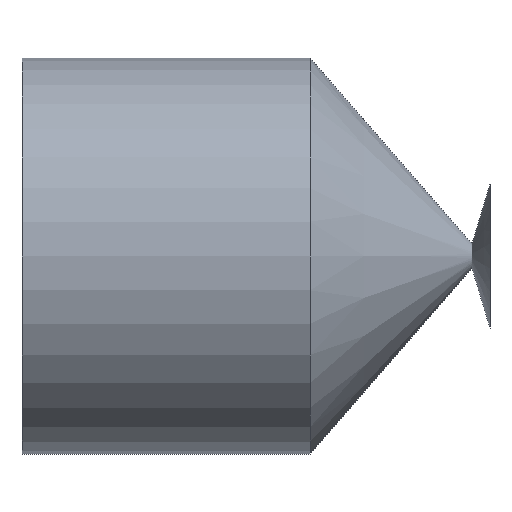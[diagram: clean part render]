
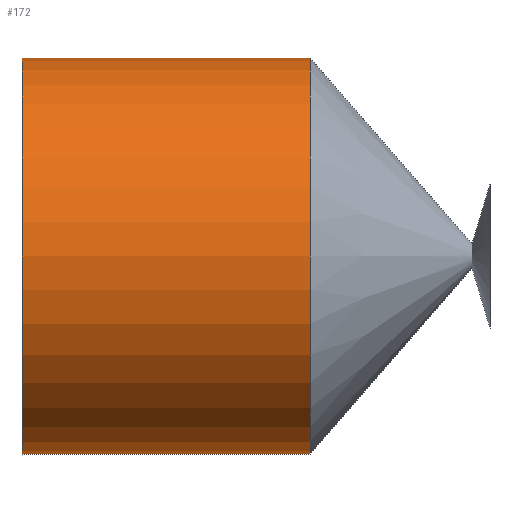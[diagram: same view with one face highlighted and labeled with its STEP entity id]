
A CAD part, left-side view. The second image highlights one B-rep face of the part: STEP entity #172.
In plain terms, the highlighted cylindrical face has radius 5.5 mm (diameter 11 mm), a partial arc.
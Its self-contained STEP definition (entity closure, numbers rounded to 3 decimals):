
#5 = DIRECTION ( 'NONE',  ( 0., -1., 0. ) ) ;
#18 = CARTESIAN_POINT ( 'NONE',  ( 0., 13., 0. ) ) ;
#27 = VERTEX_POINT ( 'NONE', #113 ) ;
#54 = VECTOR ( 'NONE', #500, 1000. ) ;
#59 = CIRCLE ( 'NONE', #99, 5.5 ) ;
#86 = AXIS2_PLACEMENT_3D ( 'NONE', #490, #5, #291 ) ;
#92 = VERTEX_POINT ( 'NONE', #466 ) ;
#99 = AXIS2_PLACEMENT_3D ( 'NONE', #18, #261, #506 ) ;
#103 = VERTEX_POINT ( 'NONE', #155 ) ;
#110 = CARTESIAN_POINT ( 'NONE',  ( 0., 0., -5.5 ) ) ;
#113 = CARTESIAN_POINT ( 'NONE',  ( 0., 13., -5.5 ) ) ;
#142 = CARTESIAN_POINT ( 'NONE',  ( 0., 0., 0. ) ) ;
#147 = ORIENTED_EDGE ( 'NONE', *, *, #316, .T. ) ;
#153 = ORIENTED_EDGE ( 'NONE', *, *, #516, .F. ) ;
#155 = CARTESIAN_POINT ( 'NONE',  ( 0., 5., -5.5 ) ) ;
#166 = FACE_OUTER_BOUND ( 'NONE', #383, .T. ) ;
#172 = ADVANCED_FACE ( 'NONE', ( #166 ), #477, .T. ) ;
#191 = ORIENTED_EDGE ( 'NONE', *, *, #468, .F. ) ;
#195 = DIRECTION ( 'NONE',  ( 0., -1., 0. ) ) ;
#259 = EDGE_CURVE ( 'NONE', #27, #103, #269, .T. ) ;
#261 = DIRECTION ( 'NONE',  ( 0., -1., 0. ) ) ;
#264 = DIRECTION ( 'NONE',  ( 0., -1., 0. ) ) ;
#269 = LINE ( 'NONE', #110, #395 ) ;
#291 = DIRECTION ( 'NONE',  ( 0., 0., -1. ) ) ;
#292 = CARTESIAN_POINT ( 'NONE',  ( 0., 0., 5.5 ) ) ;
#316 = EDGE_CURVE ( 'NONE', #417, #27, #59, .T. ) ;
#349 = DIRECTION ( 'NONE',  ( 0., 0., -1. ) ) ;
#383 = EDGE_LOOP ( 'NONE', ( #191, #147, #408, #153 ) ) ;
#395 = VECTOR ( 'NONE', #264, 1000. ) ;
#403 = LINE ( 'NONE', #292, #54 ) ;
#408 = ORIENTED_EDGE ( 'NONE', *, *, #259, .T. ) ;
#412 = CARTESIAN_POINT ( 'NONE',  ( 0., 13., 5.5 ) ) ;
#413 = AXIS2_PLACEMENT_3D ( 'NONE', #142, #195, #349 ) ;
#417 = VERTEX_POINT ( 'NONE', #412 ) ;
#433 = CIRCLE ( 'NONE', #86, 5.5 ) ;
#466 = CARTESIAN_POINT ( 'NONE',  ( 0., 5., 5.5 ) ) ;
#468 = EDGE_CURVE ( 'NONE', #417, #92, #403, .T. ) ;
#477 = CYLINDRICAL_SURFACE ( 'NONE', #413, 5.5 ) ;
#490 = CARTESIAN_POINT ( 'NONE',  ( 0., 5., 0. ) ) ;
#500 = DIRECTION ( 'NONE',  ( 0., -1., 0. ) ) ;
#506 = DIRECTION ( 'NONE',  ( 0., 0., -1. ) ) ;
#516 = EDGE_CURVE ( 'NONE', #92, #103, #433, .T. ) ;
